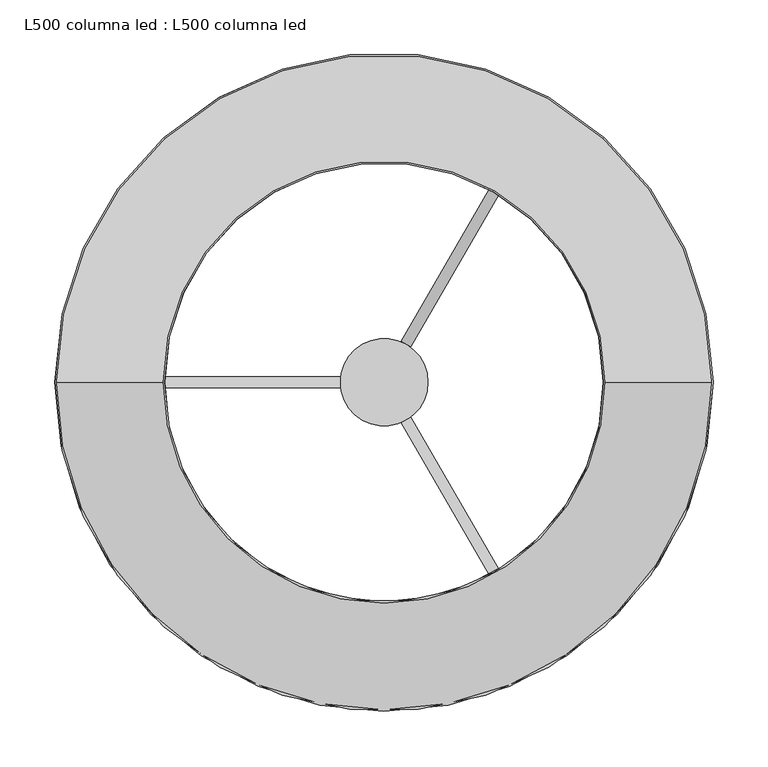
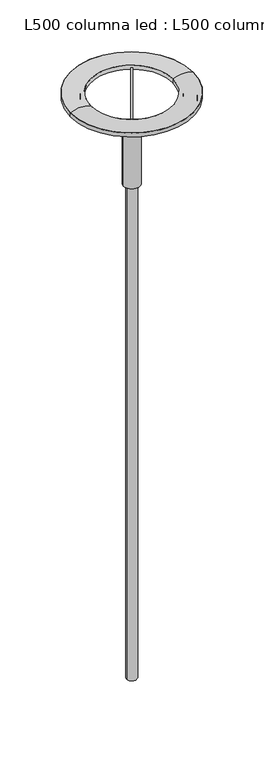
"""IFC4 building model written with IfcOpenShell, lengths in millimetres: light fixture geometry, L500 columna led : L500 columna led."""

from ifc_helpers import new_model, si_unit, point, frame, origin, origin_with_axes, origin_2d, place, context, project, spatial, polyline, circle_curve, ellipse_curve, trimmed, segment, composite_curve, outline, extrude, source, transform, mapped, element, save
from ifc_brep_helpers import plane_surface, revolved_surface, advanced_brep


def l500_columna_led_l500_columna_led_6c9320cc(model_context):
    return source(origin(), model_context, "Body", "SolidModel", [
        extrude(outline(composite_curve([segment(trimmed(circle_curve(origin_2d(), 25.0), [point((-25.0, 0.0))], [point((25.0, 0.0))], False, "CARTESIAN"), True, "CONTINUOUS"), segment(trimmed(circle_curve(origin_2d(), 25.0), [point((25.0, 0.0))], [point((-25.0, 0.0))], False, "CARTESIAN"), True, "CONTINUOUS")], self_intersect=False)), origin_with_axes(), (0.0, 0.0, 1.0), 2550.0),
        extrude(outline(polyline([(-226.27417, 0.0), (0.0, 0.0), (14.1421356, -14.1421356), (-226.27417, -14.1421356), (-219.2031022, -7.0710678), (-226.27417, 0.0)])), frame((15.669873, -37.1410162, 2850.0), z_axis=(0.8660254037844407, 0.49999999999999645, 0.0), x_axis=(-0.3535533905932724, 0.6123724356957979, -0.7071067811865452)), (0.0, 0.0, 1.0), 10.0),
        extrude(outline(polyline([(3010.0, -200.0), (3000.0, -200.0), (3000.0, -210.0), (2830.0, -40.0), (2850.0, -40.0), (3010.0, -200.0)])), frame((0.0, -5.0, 0.0), z_axis=(0.0, 1.0, 0.0), x_axis=(0.0, 0.0, 1.0)), (0.0, 0.0, 1.0), 10.0),
        extrude(outline(polyline([(-226.27417, 0.0), (0.0, 0.0), (14.1421356, -14.1421356), (-226.27417, -14.1421356), (-219.2031022, -7.0710678), (-226.27417, 0.0)])), frame((24.330127, 32.1410162, 2850.0), z_axis=(-0.8660254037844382, 0.5000000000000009, 0.0), x_axis=(-0.3535533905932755, -0.6123724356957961, -0.7071067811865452)), (0.0, 0.0, 1.0), 10.0),
        extrude(outline(composite_curve([segment(trimmed(circle_curve(origin_2d(), 40.0), [point((-40.0, 0.0))], [point((40.0, 0.0))], False, "CARTESIAN"), True, "CONTINUOUS"), segment(trimmed(circle_curve(origin_2d(), 40.0), [point((40.0, 0.0))], [point((-40.0, 0.0))], False, "CARTESIAN"), True, "CONTINUOUS")], self_intersect=False)), frame((0.0, 0.0, 2550.0), z_axis=(0.0, 0.0, 1.0), x_axis=(1.0, 0.0, 0.0)), (0.0, 0.0, 1.0), 300.0),
        extrude(outline(composite_curve([segment(trimmed(circle_curve(origin_2d(), 280.0), [point((-131.2504318, 247.3324163))], [point((279.8213716, 10.0))], False, "CARTESIAN"), True, "CONTINUOUS"), segment(polyline([(279.8213716, 10.0), (219.7726098, 10.0)]), True, "CONTINUOUS"), segment(trimmed(circle_curve(origin_2d(), 220.0), [point((219.7726098, 10.0))], [point((-101.2260508, 195.3286631))], True, "CARTESIAN"), True, "CONTINUOUS"), segment(polyline([(-101.2260508, 195.3286631), (-131.2504318, 247.3324163)]), True, "CONTINUOUS")], self_intersect=False)), frame((0.0, 0.0, 3000.0), z_axis=(0.0, 0.0, 1.0), x_axis=(1.0, 0.0, 0.0)), (0.0, 0.0, 1.0), 10.0),
        extrude(outline(composite_curve([segment(trimmed(circle_curve(origin_2d(), 280.0), [point((-148.5709398, -237.3324163))], [point((-148.5709398, 237.3324163))], False, "CARTESIAN"), True, "CONTINUOUS"), segment(polyline([(-148.5709398, 237.3324163), (-118.5465589, 185.3286631)]), True, "CONTINUOUS"), segment(trimmed(circle_curve(origin_2d(), 220.0), [point((-118.5465589, 185.3286631))], [point((-118.5465589, -185.3286631))], True, "CARTESIAN"), True, "CONTINUOUS"), segment(polyline([(-118.5465589, -185.3286631), (-148.5709398, -237.3324163)]), True, "CONTINUOUS")], self_intersect=False)), frame((0.0, 0.0, 3000.0), z_axis=(0.0, 0.0, 1.0), x_axis=(1.0, 0.0, 0.0)), (0.0, 0.0, 1.0), 10.0),
        extrude(outline(composite_curve([segment(trimmed(circle_curve(origin_2d(), 280.0), [point((279.8213716, -10.0))], [point((-131.2504318, -247.3324163))], False, "CARTESIAN"), True, "CONTINUOUS"), segment(polyline([(-131.2504318, -247.3324163), (-101.2260508, -195.3286631)]), True, "CONTINUOUS"), segment(trimmed(circle_curve(origin_2d(), 220.0), [point((-101.2260508, -195.3286631))], [point((219.7726098, -10.0))], True, "CARTESIAN"), True, "CONTINUOUS"), segment(polyline([(219.7726098, -10.0), (279.8213716, -10.0)]), True, "CONTINUOUS")], self_intersect=False)), frame((0.0, 0.0, 3000.0), z_axis=(0.0, 0.0, 1.0), x_axis=(1.0, 0.0, 0.0)), (0.0, 0.0, 1.0), 10.0),
        extrude(outline(composite_curve([segment(trimmed(circle_curve(origin_2d(), 300.0), [point((-300.0, 0.0))], [point((300.0, 0.0))], False, "CARTESIAN"), True, "CONTINUOUS"), segment(trimmed(circle_curve(origin_2d(), 300.0), [point((300.0, 0.0))], [point((-300.0, 0.0))], False, "CARTESIAN"), True, "CONTINUOUS")], self_intersect=False), holes=[composite_curve([segment(trimmed(circle_curve(origin_2d(), 200.0), [point((-200.0, 0.0))], [point((200.0, 0.0))], True, "CARTESIAN"), True, "CONTINUOUS"), segment(trimmed(circle_curve(origin_2d(), 200.0), [point((200.0, 0.0))], [point((-200.0, 0.0))], True, "CARTESIAN"), True, "CONTINUOUS")], self_intersect=False), composite_curve([segment(polyline([(-131.2504318, 247.3324163), (-101.2260508, 195.3286631)]), True, "CONTINUOUS"), segment(trimmed(circle_curve(origin_2d(), 220.0), [point((-101.2260508, 195.3286631))], [point((219.7726098, 10.0))], False, "CARTESIAN"), True, "CONTINUOUS"), segment(polyline([(219.7726098, 10.0), (279.8213716, 10.0)]), True, "CONTINUOUS"), segment(trimmed(circle_curve(origin_2d(), 280.0), [point((279.8213716, 10.0))], [point((-131.2504318, 247.3324163))], True, "CARTESIAN"), True, "CONTINUOUS")], self_intersect=False), composite_curve([segment(polyline([(-148.5709398, -237.3324163), (-118.5465589, -185.3286631)]), True, "CONTINUOUS"), segment(trimmed(circle_curve(origin_2d(), 220.0), [point((-118.5465589, -185.3286631))], [point((-118.5465589, 185.3286631))], False, "CARTESIAN"), True, "CONTINUOUS"), segment(polyline([(-118.5465589, 185.3286631), (-148.5709398, 237.3324163)]), True, "CONTINUOUS"), segment(trimmed(circle_curve(origin_2d(), 280.0), [point((-148.5709398, 237.3324163))], [point((-148.5709398, -237.3324163))], True, "CARTESIAN"), True, "CONTINUOUS")], self_intersect=False), composite_curve([segment(polyline([(279.8213716, -10.0), (219.7726098, -10.0)]), True, "CONTINUOUS"), segment(trimmed(circle_curve(origin_2d(), 220.0), [point((219.7726098, -10.0))], [point((-101.2260508, -195.3286631))], False, "CARTESIAN"), True, "CONTINUOUS"), segment(polyline([(-101.2260508, -195.3286631), (-131.2504318, -247.3324163)]), True, "CONTINUOUS"), segment(trimmed(circle_curve(origin_2d(), 280.0), [point((-131.2504318, -247.3324163))], [point((279.8213716, -10.0))], True, "CARTESIAN"), True, "CONTINUOUS")], self_intersect=False)]), frame((0.0, 0.0, 3000.0), z_axis=(0.0, 0.0, 1.0), x_axis=(1.0, 0.0, 0.0)), (0.0, 0.0, 1.0), 20.0),
        advanced_brep(
        [(-200.1786284, 0.0, 3020.0), (200.0, 0.0, 3020.0), (300.0, 0.0, 3020.0), (-300.1786284, 0.0, 3020.0)],
        [
            (0, 1, circle_curve(frame((-0.0893142, 0.0, 3020.0), z_axis=(0.0, 0.0, -1.0), x_axis=(1.0, 0.0, 0.0)), 200.0893142)),
            (1, 2, circle_curve(frame((250.0, 0.0, 2911.6848638), z_axis=(0.0, 1.0, 0.0), x_axis=(1.0, 0.0, 0.0)), 119.2986535)),
            (2, 3, circle_curve(frame((-0.0893142, 0.0, 3020.0), z_axis=(0.0, 0.0, 1.0), x_axis=(1.0, 0.0, 0.0)), 300.0893142)),
            (3, 0, circle_curve(frame((-250.1786284, 0.0, 2911.6848638), z_axis=(0.0, 1.0, 0.0), x_axis=(-1.0, 0.0, 0.0)), 119.2986535)),
            (1, 0, circle_curve(frame((-0.0893142, 0.0, 3020.0), z_axis=(0.0, 0.0, -1.0), x_axis=(1.0, 0.0, 0.0)), 200.0893142)),
            (3, 2, circle_curve(frame((-0.0893142, 0.0, 3020.0), z_axis=(0.0, 0.0, 1.0), x_axis=(1.0, 0.0, 0.0)), 300.0893142)),
            (2, 1),
            (0, 3),
        ],
        [
            revolved_surface(trimmed(ellipse_curve(frame((250.0, 0.0, 2911.6848638), z_axis=(0.0, -1.0, 0.0), x_axis=(1.0, 0.0, 0.0)), 119.2986535, 119.2986535), [point((300.0, 0.0, 3020.0))], [point((200.0, 0.0, 3020.0))], True, "CARTESIAN"), (-0.0893142, 0.0, 2772.4894147), (0.0, 0.0, 1.0)),
            plane_surface(frame((-0.0893142, 0.0, 3020.0), z_axis=(0.0, 0.0, -1.0), x_axis=(1.0, 0.0, 0.0))),
        ],
        [
            (0, [[1, 2, 3, 4]]),
            (0, [[5, -4, 6, -2]]),
            (1, [[-3, 7, -1, 8]]),
            (1, [[-6, -8, -5, -7]]),
        ],
    ),
    ])


if __name__ == "__main__":
    model = new_model("IFC4")
    model_context = context("Model", 3, world=origin())
    ifc_project = project(units=[si_unit("LENGTHUNIT", "METRE", prefix="MILLI")], contexts=[model_context])
    site = spatial("IfcSite", under=ifc_project)
    building = spatial("IfcBuilding", under=site)
    placement = place(None, origin())
    l500_columna_led_l500_columna_led_shape = l500_columna_led_l500_columna_led_6c9320cc(model_context)
    element("IfcLightFixture", 1, ObjectType="L500 columna led : L500 columna led", at=placement, inside=building, context=model_context, shape_type="MappedRepresentation", body=[
        mapped(l500_columna_led_l500_columna_led_shape, transform((0.0, 0.0, 0.0), x_axis=(1.0, 0.0, 0.0), y_axis=(0.0, 1.0, 0.0), z_axis=(0.0, 0.0, 1.0))),
    ])
    save(model, "model.ifc")
